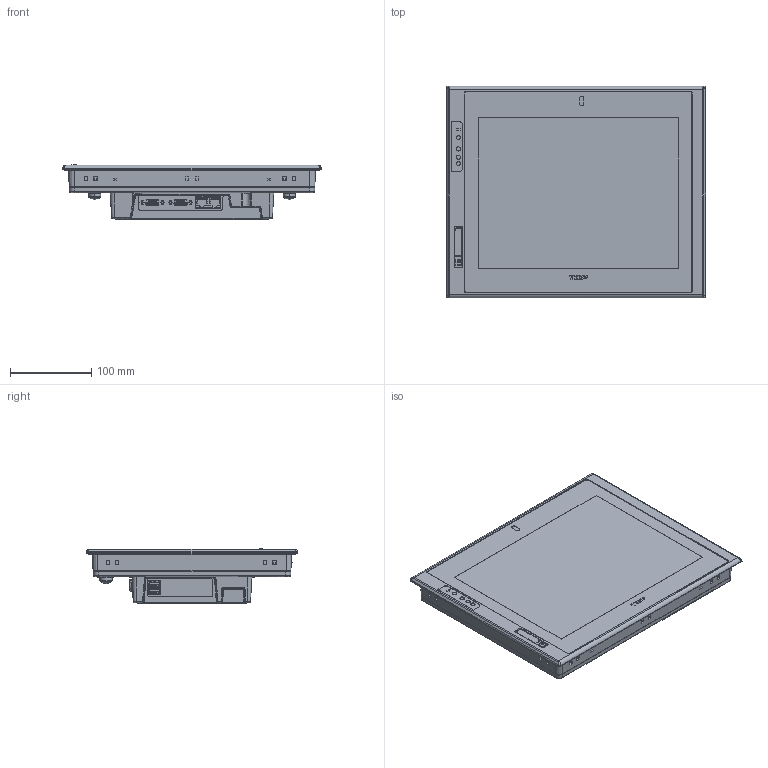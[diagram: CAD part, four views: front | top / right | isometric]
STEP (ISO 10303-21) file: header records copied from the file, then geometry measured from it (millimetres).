
FILE_DESCRIPTION((''),'2;1');
FILE_NAME('3D_TOPRT1210SD-EX','2018-07-02T',('bckim'),(''),'CREO PARAMETRIC BY PTC INC, 2016260','CREO PARAMETRIC BY PTC INC, 2016260','');
FILE_SCHEMA(('CONFIG_CONTROL_DESIGN'));
Products named in the file (1): 3D_TOPRT1210SD-EX
Bounding box: 320 x 261 x 66.6 mm (x, y, z)
Volume: 3275130.6 mm3; surface area: 269191 mm2
Topology: 1 solids, 36 shells, 3967 faces, 10071 edges, 6300 vertices
Faces by surface type: plane 2006, cylinder 1076, bspline 300, cone 203, torus 198, extrusion 124, sphere 59, revolution 1
Entity records: 142562 total; most frequent: CARTESIAN_POINT 50128, ORIENTED_EDGE 20050, DIRECTION 17567, EDGE_CURVE 10025, VECTOR 6370, VERTEX_POINT 6300, LINE 6246, AXIS2_PLACEMENT_3D 5598
